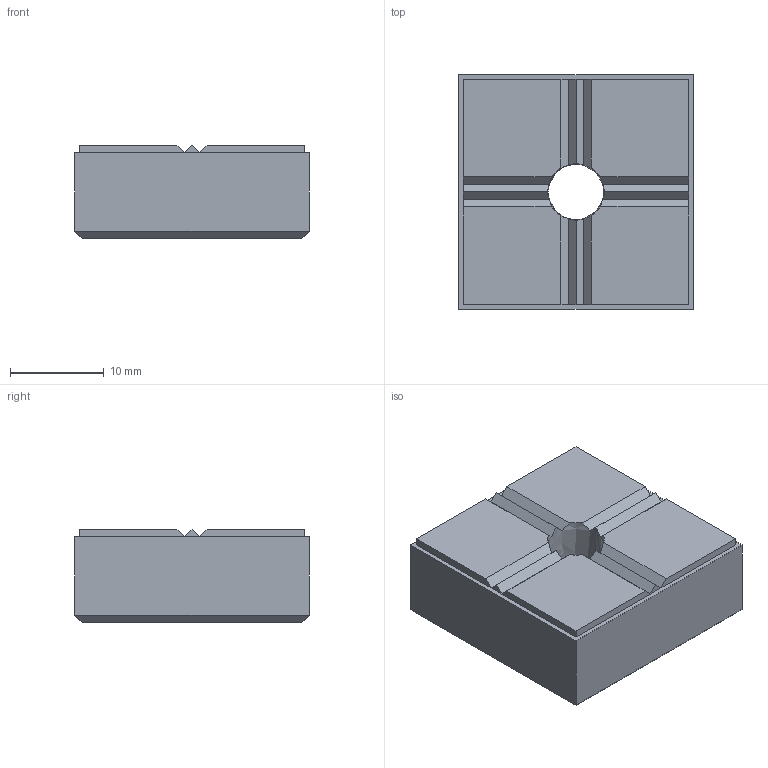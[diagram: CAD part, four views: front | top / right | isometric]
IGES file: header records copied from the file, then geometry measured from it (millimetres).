
Start section: SolidWorks IGES FILE using analytic representation for surfaces
Global section: file name: C:\WIX2\Positioning\3546\3546W007.igs; native system: SolidWorks 2003 by SolidWorks Corporation; preprocessor: Version 5.3; author: Joan; date: 030722.143909; units: millimetre
Bounding box: 25 x 25 x 10 mm (x, y, z)
Surface area: 2368.9 mm2 (no closed solid volume)
Topology: 0 solids, 0 shells, 44 faces, 266 edges, 266 vertices
Faces by surface type: bspline 42, revolution 2
